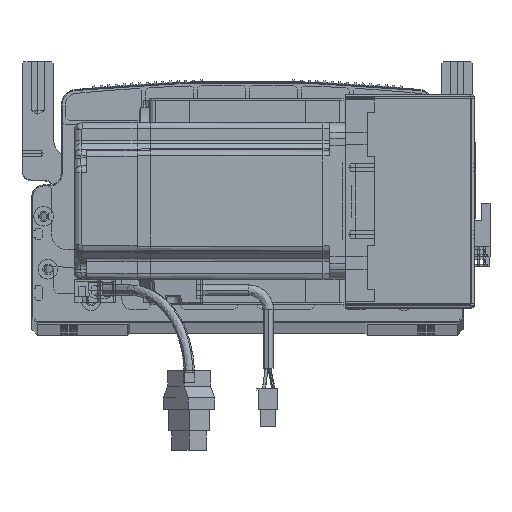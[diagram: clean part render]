
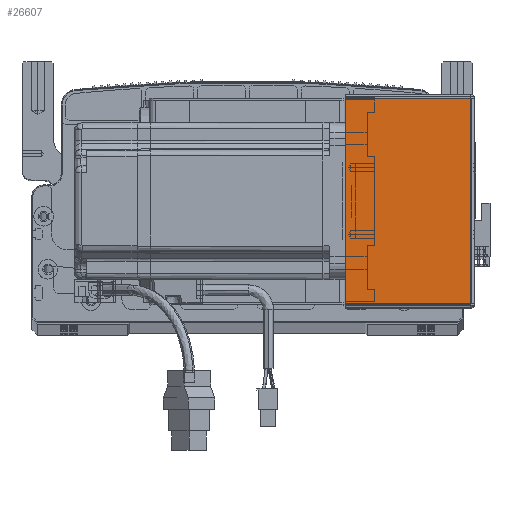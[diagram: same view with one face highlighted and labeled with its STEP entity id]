
A CAD part, top view. The second image highlights one B-rep face of the part: STEP entity #26607.
In plain terms, the highlighted planar face has unit normal (0, 0, 1) as drawn and (0, 0, -1) by its records, which use the part's own axes.
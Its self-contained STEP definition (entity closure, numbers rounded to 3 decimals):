
#2794 = DIRECTION ( 'NONE',  ( 0., 0., 1. ) ) ;
#3222 = CARTESIAN_POINT ( 'NONE',  ( 0.737, 105.293, -205.5 ) ) ;
#6018 = VERTEX_POINT ( 'NONE', #3222 ) ;
#9803 = EDGE_CURVE ( 'NONE', #20757, #65054, #47454, .T. ) ;
#11191 = ORIENTED_EDGE ( 'NONE', *, *, #81973, .F. ) ;
#15055 = AXIS2_PLACEMENT_3D ( 'NONE', #18798, #2794, #40611 ) ;
#15639 = DIRECTION ( 'NONE',  ( 1., 0., 0. ) ) ;
#16196 = DIRECTION ( 'NONE',  ( 0., -1., 0. ) ) ;
#18459 = PLANE ( 'NONE',  #15055 ) ;
#18798 = CARTESIAN_POINT ( 'NONE',  ( 0., 0., -205.5 ) ) ;
#20757 = VERTEX_POINT ( 'NONE', #58183 ) ;
#21320 = CARTESIAN_POINT ( 'NONE',  ( 64.5, 105.293, -205.5 ) ) ;
#26607 = ADVANCED_FACE ( 'NONE', ( #96170 ), #18459, .F. ) ;
#28153 = VECTOR ( 'NONE', #15639, 1000. ) ;
#37274 = DIRECTION ( 'NONE',  ( 1., 0., 0. ) ) ;
#38082 = VECTOR ( 'NONE', #16196, 1000. ) ;
#38545 = DIRECTION ( 'NONE',  ( 0., -1., 0. ) ) ;
#40611 = DIRECTION ( 'NONE',  ( 1., 0., 0. ) ) ;
#44739 = CARTESIAN_POINT ( 'NONE',  ( 0., 0.707, -205.5 ) ) ;
#44989 = VECTOR ( 'NONE', #37274, 1000. ) ;
#47454 = LINE ( 'NONE', #44739, #44989 ) ;
#52099 = VERTEX_POINT ( 'NONE', #21320 ) ;
#53187 = EDGE_CURVE ( 'NONE', #6018, #52099, #98629, .T. ) ;
#54962 = CARTESIAN_POINT ( 'NONE',  ( 0.737, 0., -205.5 ) ) ;
#55149 = ORIENTED_EDGE ( 'NONE', *, *, #87177, .T. ) ;
#55780 = CARTESIAN_POINT ( 'NONE',  ( 0., 105.293, -205.5 ) ) ;
#58183 = CARTESIAN_POINT ( 'NONE',  ( 0.737, 0.707, -205.5 ) ) ;
#62796 = ORIENTED_EDGE ( 'NONE', *, *, #53187, .T. ) ;
#65054 = VERTEX_POINT ( 'NONE', #69239 ) ;
#69239 = CARTESIAN_POINT ( 'NONE',  ( 64.5, 0.707, -205.5 ) ) ;
#69728 = ORIENTED_EDGE ( 'NONE', *, *, #9803, .F. ) ;
#74856 = LINE ( 'NONE', #85165, #77311 ) ;
#77311 = VECTOR ( 'NONE', #38545, 1000. ) ;
#81973 = EDGE_CURVE ( 'NONE', #6018, #20757, #95219, .T. ) ;
#85165 = CARTESIAN_POINT ( 'NONE',  ( 64.5, 0., -205.5 ) ) ;
#87177 = EDGE_CURVE ( 'NONE', #52099, #65054, #74856, .T. ) ;
#87977 = EDGE_LOOP ( 'NONE', ( #11191, #62796, #55149, #69728 ) ) ;
#95219 = LINE ( 'NONE', #54962, #38082 ) ;
#96170 = FACE_OUTER_BOUND ( 'NONE', #87977, .T. ) ;
#98629 = LINE ( 'NONE', #55780, #28153 ) ;
